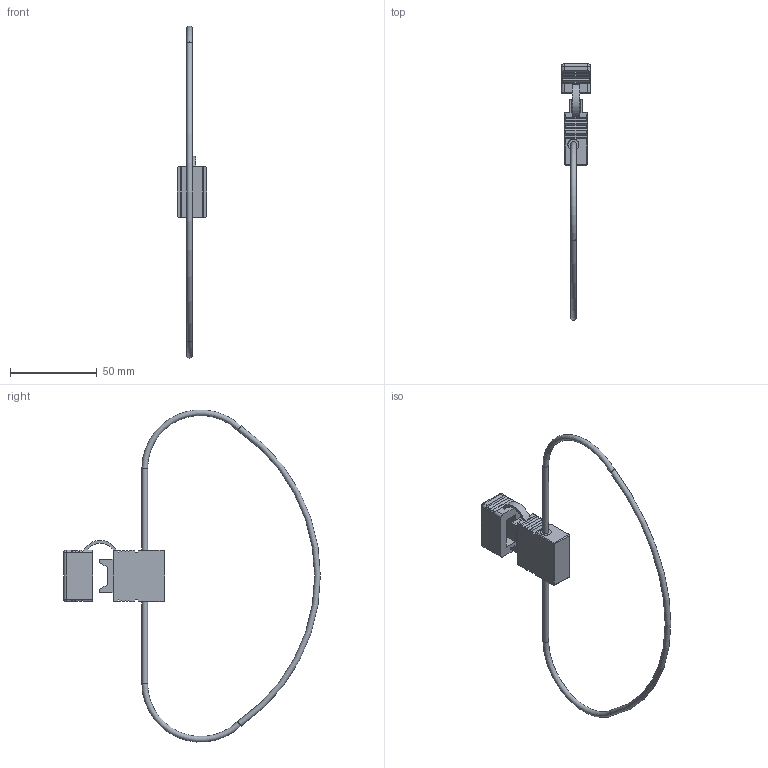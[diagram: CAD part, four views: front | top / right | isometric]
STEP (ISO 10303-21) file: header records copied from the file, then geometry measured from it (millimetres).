
FILE_DESCRIPTION(/* description */ (''),/* implementation_level */ '2;1');
FILE_NAME(/* name */ 'C:\Users\Hani\Desktop\work\LPR-13\LPR-13.stp',/* time_stamp */ '2021-07-10T14:35:49-07:00',/* author */ ('Hani'),/* organization */ (''),/* preprocessor_version */ 'ST-DEVELOPER v17',/* originating_system */ 'Autodesk Inventor 2019',/* authorisation */ '');
FILE_SCHEMA (('AUTOMOTIVE_DESIGN { 1 0 10303 214 3 1 1 }'));
Length unit declared in the file: inch
Products named in the file (1): LPR-03
Bounding box: 16.76 x 148 x 191.45 mm (x, y, z)
Volume: 21862.5 mm3; surface area: 12131.2 mm2
Topology: 1 solids, 1 shells, 279 faces, 750 edges, 490 vertices
Faces by surface type: plane 151, bspline 67, cylinder 48, sphere 8, torus 5
Full cylindrical faces by diameter (mm): 3.264 x2
Entity records: 9560 total; most frequent: CARTESIAN_POINT 2595, ORIENTED_EDGE 1500, DIRECTION 1185, EDGE_CURVE 750, VERTEX_POINT 490, LINE 473, VECTOR 473, AXIS2_PLACEMENT_3D 356
